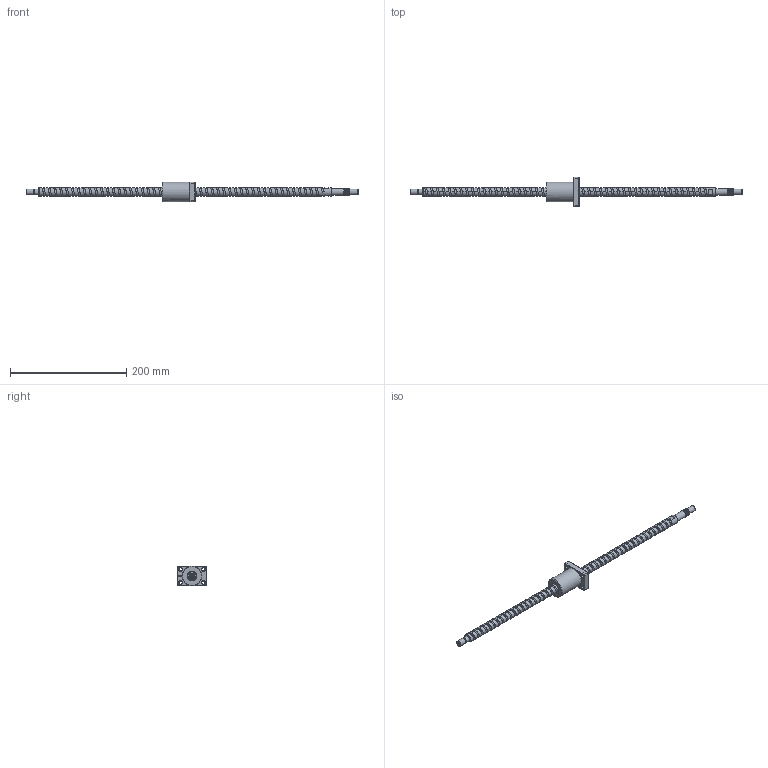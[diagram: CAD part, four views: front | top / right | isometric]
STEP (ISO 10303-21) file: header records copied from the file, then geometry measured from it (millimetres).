
FILE_DESCRIPTION (( 'STEP AP203' ), '1' );
FILE_NAME ('XSVR01510B1DGC5-571-P1.step', '2024-06-03T05:10:34', ( '' ), ( '' ), 'SwSTEP 2.0', 'SolidWorks 2022', '' );
FILE_SCHEMA (( 'CONFIG_CONTROL_DESIGN' ));
Length unit declared in the file: millimetre
Products named in the file (1): XSVR01510B1DGC5-571-P1
Bounding box: 571 x 50 x 34 mm (x, y, z)
Volume: 132731.8 mm3; surface area: 42302 mm2
Topology: 2 solids, 2 shells, 179 faces, 485 edges, 316 vertices
Faces by surface type: cylinder 102, plane 43, cone 15, bspline 10, torus 9
Full cylindrical faces by diameter (mm): 4 x1, 4.2 x15, 5 x6, 5.5 x4, 9.5 x4, 9.6 x1, 10 x3, 12 x9, 15 x49, 16.7 x1, 34 x1
Entity records: 22588 total; most frequent: CARTESIAN_POINT 20464, ORIENTED_EDGE 402, DIRECTION 391, EDGE_CURVE 201, AXIS2_PLACEMENT_3D 168, EDGE_LOOP 153, VERTEX_POINT 146, FACE_OUTER_BOUND 120
